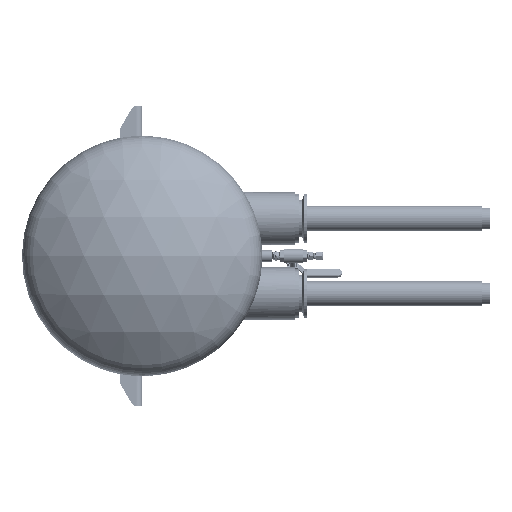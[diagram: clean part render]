
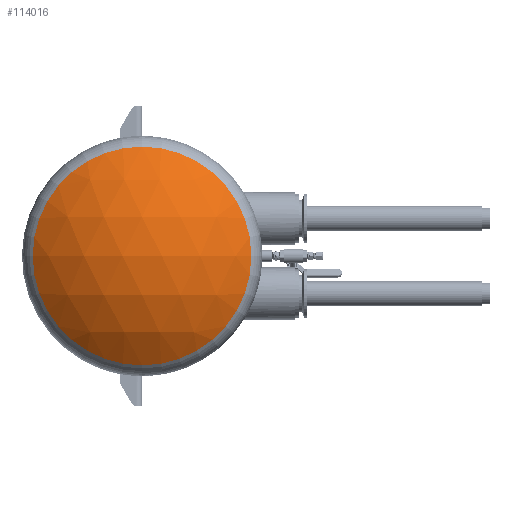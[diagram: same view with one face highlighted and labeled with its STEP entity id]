
A CAD part, left-side view. The second image highlights one B-rep face of the part: STEP entity #114016.
In plain terms, the highlighted spherical face has radius 287.38 mm.
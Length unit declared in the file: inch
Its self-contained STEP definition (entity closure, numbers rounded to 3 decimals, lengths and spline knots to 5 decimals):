
#21200 = DIRECTION ( 'NONE',  ( 0., 0., -1. ) ) ;
#23334 = AXIS2_PLACEMENT_3D ( 'NONE', #172533, #88577, #155772 ) ;
#24977 = CARTESIAN_POINT ( 'NONE',  ( -43.83975, 0., -7.28836 ) ) ;
#35980 = ORIENTED_EDGE ( 'NONE', *, *, #106003, .F. ) ;
#36336 = SPHERICAL_SURFACE ( 'NONE', #23334, 11.31418 ) ;
#45161 = CARTESIAN_POINT ( 'NONE',  ( -43.83975, 0., 0. ) ) ;
#58453 = DIRECTION ( 'NONE',  ( 1., 0., 0. ) ) ;
#87633 = EDGE_LOOP ( 'NONE', ( #35980 ) ) ;
#88577 = DIRECTION ( 'NONE',  ( 0., 0., 1. ) ) ;
#105506 = VERTEX_POINT ( 'NONE', #24977 ) ;
#106003 = EDGE_CURVE ( 'NONE', #105506, #105506, #172238, .T. ) ;
#114016 = ADVANCED_FACE ( 'NONE', ( #132741 ), #36336, .T. ) ;
#132741 = FACE_OUTER_BOUND ( 'NONE', #87633, .T. ) ;
#155189 = AXIS2_PLACEMENT_3D ( 'NONE', #45161, #58453, #21200 ) ;
#155772 = DIRECTION ( 'NONE',  ( 0., 1., 0. ) ) ;
#172238 = CIRCLE ( 'NONE', #155189, 7.28836 ) ;
#172533 = CARTESIAN_POINT ( 'NONE',  ( -35.18582, 0., 0. ) ) ;
